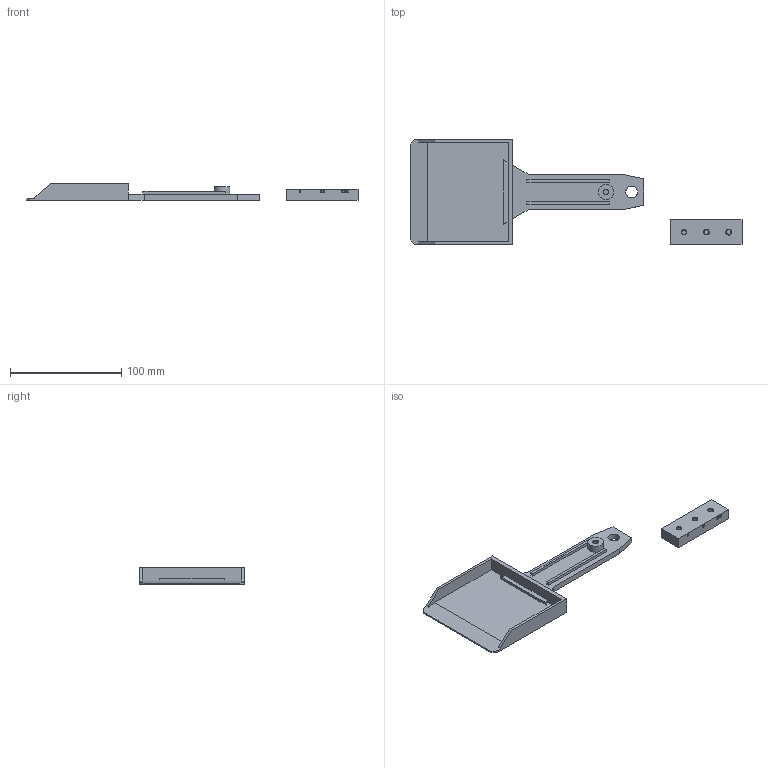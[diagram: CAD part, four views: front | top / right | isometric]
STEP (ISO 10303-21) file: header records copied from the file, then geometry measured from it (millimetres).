
FILE_DESCRIPTION(('Open CASCADE Model'),'2;1');
FILE_NAME('Open CASCADE Shape Model','2026-07-27T17:29:50',('Author'),( 'Open CASCADE'),'Open CASCADE STEP processor 7.9','Open CASCADE 7.9' ,'Unknown');
FILE_SCHEMA(('AUTOMOTIVE_DESIGN { 1 0 10303 214 1 1 1 1 }'));
Length unit declared in the file: millimetre
Products named in the file (3): Open CASCADE STEP translator 7.9 1; Open CASCADE STEP translator 7.9 1.1; Open CASCADE STEP translator 7.9 1.2
Assembly tree (2 placements, depth 2):
  Open CASCADE STEP translator 7.9 1
    Open CASCADE STEP translator 7.9 1.1
    Open CASCADE STEP translator 7.9 1.2
Bounding box: 298 x 94 x 15 mm (x, y, z)
Volume: 69557.2 mm3; surface area: 38888.9 mm2
Topology: 2 solids, 2 shells, 82 faces, 183 edges, 122 vertices
Faces by surface type: plane 66, cylinder 16
Full cylindrical faces by diameter (mm): 4 x1, 4.2 x2, 4.4 x1, 5 x1, 5.2 x2, 5.4 x1, 10.5 x1, 14 x1
Entity records: 4698 total; most frequent: CARTESIAN_POINT 780, DIRECTION 747, LINE 485, VECTOR 485, ORIENTED_EDGE 366, PCURVE 366, DEFINITIONAL_REPRESENTATION 366, EDGE_CURVE 183
